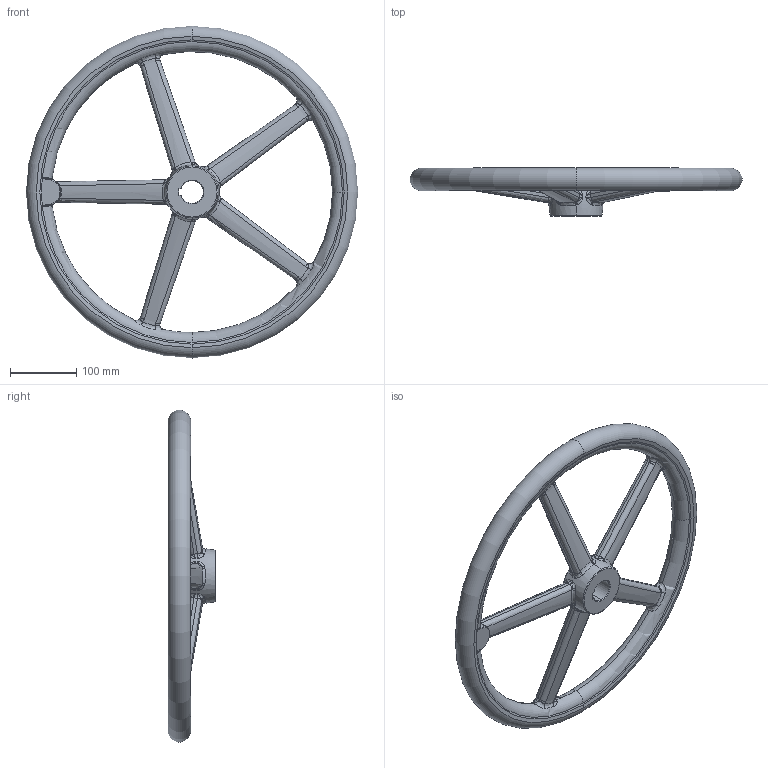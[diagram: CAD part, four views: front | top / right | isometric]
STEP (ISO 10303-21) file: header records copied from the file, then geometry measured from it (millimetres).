
FILE_DESCRIPTION (( 'STEP AP203' ), '1' );
FILE_NAME ('din950_a3_500x34.step', '2010-03-23T09:54:36', ( '_' ), ( '_' ), 'SwSTEP 2.0', 'SolidWorks 2010', '' );
FILE_SCHEMA (( 'CONFIG_CONTROL_DESIGN' ));
Length unit declared in the file: millimetre
Products named in the file (1): din950_a3_500x34
Bounding box: 499.87 x 72 x 499.87 mm (x, y, z)
Volume: 2222100.2 mm3; surface area: 265783.8 mm2
Topology: 1 solids, 1 shells, 279 faces, 698 edges, 368 vertices
Faces by surface type: bspline 218, torus 22, cone 18, plane 17, cylinder 4
Entity records: 64002 total; most frequent: CARTESIAN_POINT 58868, ORIENTED_EDGE 1308, EDGE_CURVE 654, DIRECTION 622, B_SPLINE_CURVE_WITH_KNOTS 391, VERTEX_POINT 368, AXIS2_PLACEMENT_3D 297, EDGE_LOOP 282
